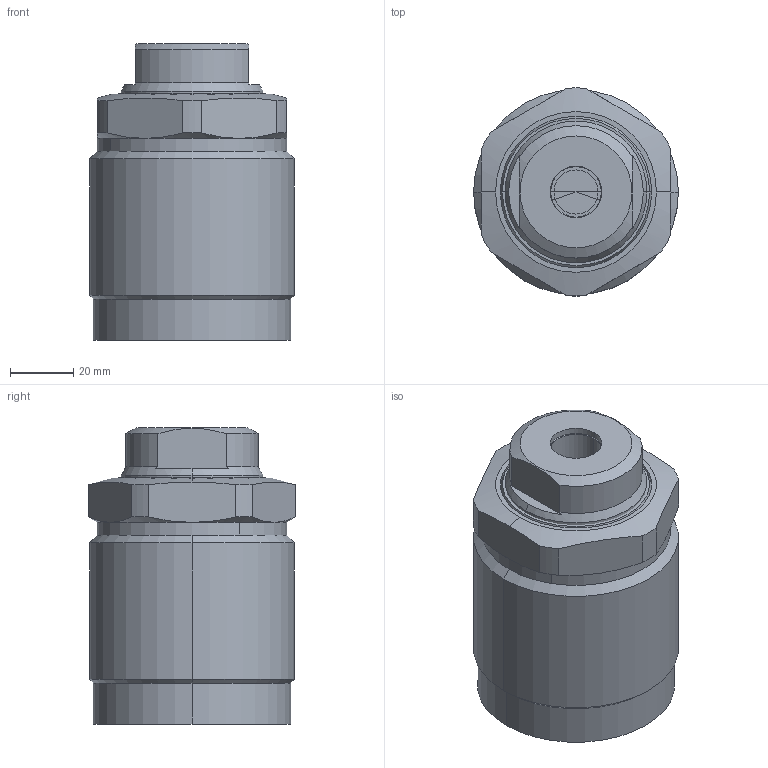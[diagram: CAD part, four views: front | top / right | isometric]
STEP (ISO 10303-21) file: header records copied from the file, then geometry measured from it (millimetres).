
FILE_DESCRIPTION((' '),'2;1');
FILE_NAME( 'TGP65-AM.x_t.stp', '2025-02-10T16:03:58', (' '), ('--- Datakit www.datakit.com---'), ' Datakit CrossCadWare V2024.1 Dec 21 2023', 'Mastercam 2025', ' ');
FILE_SCHEMA(('AUTOMOTIVE_DESIGN { 1 0 10303 214 1 1 1 1 }'));
Length unit declared in the file: millimetre
Products named in the file (1): TGP65-AM
Bounding box: 65 x 65.97 x 94 mm (x, y, z)
Volume: 300172.1 mm3; surface area: 33250.8 mm2
Topology: 2 solids, 2 shells, 83 faces, 204 edges, 128 vertices
Faces by surface type: cylinder 32, cone 28, plane 19, torus 4
Entity records: 2598 total; most frequent: CARTESIAN_POINT 596, DIRECTION 442, ORIENTED_EDGE 400, EDGE_CURVE 200, AXIS2_PLACEMENT_3D 186, VERTEX_POINT 128, CIRCLE 102, EDGE_LOOP 90
